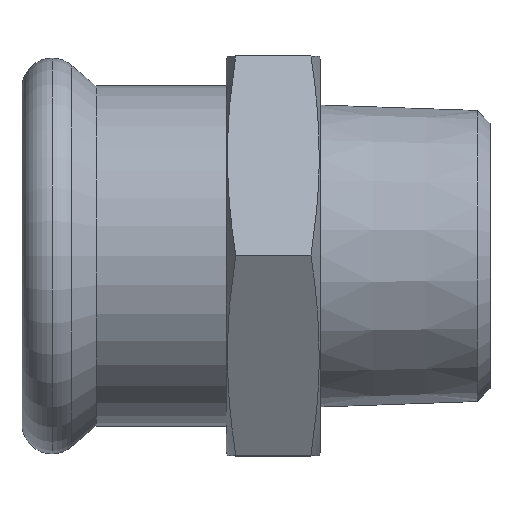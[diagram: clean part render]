
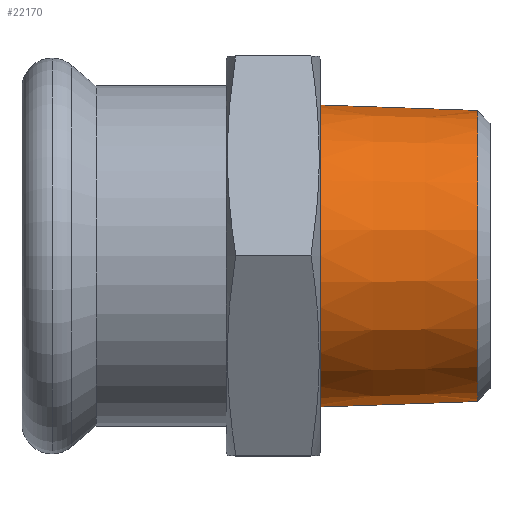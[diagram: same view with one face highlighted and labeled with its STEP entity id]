
A CAD part, top view. The second image highlights one B-rep face of the part: STEP entity #22170.
In plain terms, the highlighted conical face has half-angle 1.998 degrees and reference radius 17 mm.
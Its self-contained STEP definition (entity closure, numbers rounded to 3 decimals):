
#370=CARTESIAN_POINT('',(-73.071,-319.306,
0.));
#380=DIRECTION('',(-1.,0.,0.));
#390=DIRECTION('',(0.,-1.,0.));
#400=AXIS2_PLACEMENT_3D('',#370,#380,#390);
#410=CONICAL_SURFACE('',#400,17.,0.035);
#420=CARTESIAN_POINT('',(-73.071,-302.306,
0.));
#430=DIRECTION('',(-0.999,0.035,
0.));
#440=VECTOR('',#430,1.);
#450=LINE('',#420,#440);
#460=CARTESIAN_POINT('',(-55.37,-302.923,
0.));
#470=VERTEX_POINT('',#460);
#480=CARTESIAN_POINT('',(-73.071,-302.306,
0.));
#490=VERTEX_POINT('',#480);
#500=EDGE_CURVE('',#470,#490,#450,.T.);
#520=CARTESIAN_POINT('',(-73.071,-319.306,
0.));
#530=DIRECTION('',(-1.,0.,0.));
#540=DIRECTION('',(0.,-1.,0.));
#550=AXIS2_PLACEMENT_3D('',#520,#530,#540);
#560=CIRCLE('',#550,17.);
#570=CARTESIAN_POINT('',(-73.071,-336.306,
0.));
#580=VERTEX_POINT('',#570);
#610=CARTESIAN_POINT('',(-73.071,-336.306,
0.));
#620=DIRECTION('',(-0.999,-0.035,
0.));
#630=VECTOR('',#620,1.);
#640=LINE('',#610,#630);
#650=CARTESIAN_POINT('',(-55.37,-335.688,
0.));
#660=VERTEX_POINT('',#650);
#670=EDGE_CURVE('',#660,#580,#640,.T.);
#690=CARTESIAN_POINT('',(-55.37,-319.306,
0.));
#700=DIRECTION('',(-1.,0.,0.));
#710=DIRECTION('',(0.,-1.,0.));
#720=AXIS2_PLACEMENT_3D('',#690,#700,#710);
#730=CIRCLE('',#720,16.383);
#11560=CARTESIAN_POINT('',(-73.071,-310.806,
14.722));
#11570=VERTEX_POINT('',#11560);
#11580=EDGE_CURVE('',#11570,#490,#560,.T.);
#11600=EDGE_CURVE('',#580,#11570,#560,.T.);
#21950=EDGE_CURVE('',#660,#470,#730,.T.);
#22100=ORIENTED_EDGE('',*,*,#11580,.F.);
#22110=ORIENTED_EDGE('',*,*,#500,.T.);
#22120=ORIENTED_EDGE('',*,*,#21950,.T.);
#22130=ORIENTED_EDGE('',*,*,#670,.F.);
#22140=ORIENTED_EDGE('',*,*,#11600,.F.);
#22150=EDGE_LOOP('',(#22140,#22130,#22120,#22110,#22100));
#22160=FACE_OUTER_BOUND('',#22150,.T.);
#22170=ADVANCED_FACE('',(#22160),#410,.T.);
